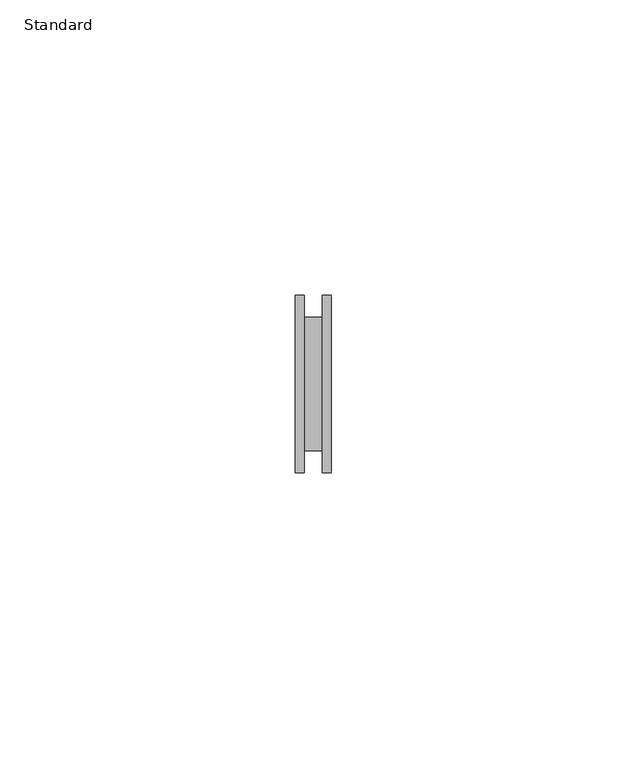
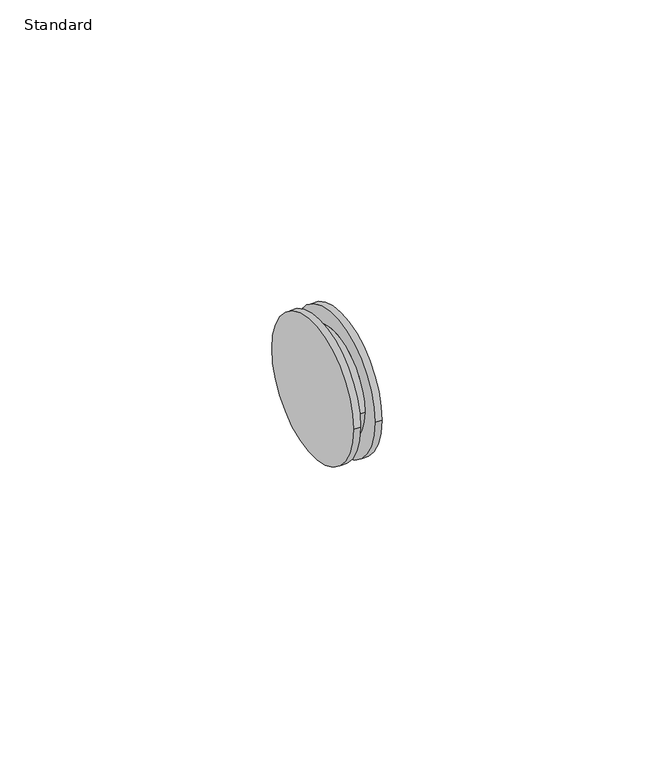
"""IFC4 building model written with IfcOpenShell, lengths in millimetres: pipe fitting geometry, Cople_Lubrizol_CPVC_FlowGuard_MX : Standard."""

from ifc_helpers import new_model, si_unit, frame, origin, place, context, project, spatial, circle_curve, source, transform, mapped, element, save
from ifc_brep_helpers import plane_surface, cylinder_surface, advanced_brep


def standard_c6e6c247(model_context):
    return source(origin(), model_context, "Body", "AdvancedBrep", [
        advanced_brep(
        [(-3.0358594, -15.0071094, 0.0), (-3.0358594, 15.0071094, 0.0), (-1.5190625, -15.0071094, 0.0), (-1.5190625, 15.0071094, 0.0), (-1.5190625, -11.3240625, 0.0), (-1.5190625, 11.3240625, 0.0), (1.5190625, -11.3240625, 0.0), (1.5190625, 11.3240625, 0.0), (1.5190625, -15.0071094, 0.0), (1.5190625, 15.0071094, 0.0), (3.0358594, -15.0071094, 0.0), (3.0358594, 15.0071094, 0.0)],
        [
            (0, 1, circle_curve(frame((-3.0358594, 0.0, 0.0), z_axis=(-1.0, 0.0, 0.0), x_axis=(0.0, 1.0, 0.0)), 15.0071094)),
            (1, 0, circle_curve(frame((-3.0358594, 0.0, 0.0), z_axis=(-1.0, 0.0, 0.0), x_axis=(0.0, 1.0, 0.0)), 15.0071094)),
            (2, 3, circle_curve(frame((-1.5190625, 0.0, 0.0), z_axis=(1.0, 0.0, 0.0), x_axis=(0.0, 1.0, 0.0)), 15.0071094)),
            (3, 2, circle_curve(frame((-1.5190625, 0.0, 0.0), z_axis=(1.0, 0.0, 0.0), x_axis=(0.0, 1.0, 0.0)), 15.0071094)),
            (4, 5, circle_curve(frame((-1.5190625, 0.0, 0.0), z_axis=(-1.0, 0.0, 0.0), x_axis=(0.0, 1.0, 0.0)), 11.3240625)),
            (5, 4, circle_curve(frame((-1.5190625, 0.0, 0.0), z_axis=(-1.0, 0.0, 0.0), x_axis=(0.0, 1.0, 0.0)), 11.3240625)),
            (0, 2),
            (3, 1),
            (4, 6),
            (6, 7, circle_curve(frame((1.5190625, 0.0, 0.0), z_axis=(-1.0, 0.0, 0.0), x_axis=(0.0, 1.0, 0.0)), 11.3240625)),
            (7, 5),
            (7, 6, circle_curve(frame((1.5190625, 0.0, 0.0), z_axis=(-1.0, 0.0, 0.0), x_axis=(0.0, 1.0, 0.0)), 11.3240625)),
            (8, 9, circle_curve(frame((1.5190625, 0.0, 0.0), z_axis=(-1.0, 0.0, 0.0), x_axis=(0.0, 1.0, 0.0)), 15.0071094)),
            (9, 8, circle_curve(frame((1.5190625, 0.0, 0.0), z_axis=(-1.0, 0.0, 0.0), x_axis=(0.0, 1.0, 0.0)), 15.0071094)),
            (10, 11, circle_curve(frame((3.0358594, 0.0, 0.0), z_axis=(1.0, 0.0, 0.0), x_axis=(0.0, 1.0, 0.0)), 15.0071094)),
            (11, 10, circle_curve(frame((3.0358594, 0.0, 0.0), z_axis=(1.0, 0.0, 0.0), x_axis=(0.0, 1.0, 0.0)), 15.0071094)),
            (8, 10),
            (11, 9),
        ],
        [
            plane_surface(frame((-3.0358594, 0.0, 0.0), z_axis=(-1.0, 0.0, 0.0), x_axis=(0.0, 0.0, 1.0))),
            plane_surface(frame((-1.5190625, 0.0, 0.0), z_axis=(1.0, 0.0, 0.0), x_axis=(0.0, 0.0, 1.0))),
            cylinder_surface(frame((-3.0358594, 0.0, 0.0), z_axis=(-1.0, 0.0, 0.0), x_axis=(0.0, 1.0, 0.0)), 15.0071094),
            cylinder_surface(frame((-1.5190625, 0.0, 0.0), z_axis=(-1.0, 0.0, 0.0), x_axis=(0.0, 1.0, 0.0)), 11.3240625),
            plane_surface(frame((1.5190625, 0.0, 0.0), z_axis=(-1.0, 0.0, 0.0), x_axis=(0.0, 0.0, 1.0))),
            plane_surface(frame((3.0358594, 0.0, 0.0), z_axis=(1.0, 0.0, 0.0), x_axis=(0.0, 0.0, 1.0))),
            cylinder_surface(frame((1.5190625, 0.0, 0.0), z_axis=(-1.0, 0.0, 0.0), x_axis=(0.0, 1.0, 0.0)), 15.0071094),
        ],
        [
            (0, [[1, 2]]),
            (1, [[3, 4], [5, 6]]),
            (2, [[-1, 7, -4, 8]]),
            (2, [[-2, -8, -3, -7]]),
            (3, [[9, 10, 11, -5]]),
            (3, [[-9, -6, -11, 12]]),
            (4, [[13, 14], [-10, -12]]),
            (5, [[15, 16]]),
            (6, [[-13, 17, -16, 18]]),
            (6, [[-14, -18, -15, -17]]),
        ],
    ),
    ])


if __name__ == "__main__":
    model = new_model("IFC4")
    model_context = context("Model", 3, world=origin())
    ifc_project = project(units=[si_unit("LENGTHUNIT", "METRE", prefix="MILLI")], contexts=[model_context])
    site = spatial("IfcSite", under=ifc_project)
    building = spatial("IfcBuilding", under=site)
    placement = place(None, origin())
    standard_shape = standard_c6e6c247(model_context)
    element("IfcPipeFitting", 1, ObjectType="Cople_Lubrizol_CPVC_FlowGuard_MX : Standard", at=placement, inside=building, context=model_context, shape_type="MappedRepresentation", body=[
        mapped(standard_shape, transform((0.0, 0.0, 0.0), x_axis=(1.0, 0.0, 0.0), y_axis=(0.0, 1.0, 0.0), z_axis=(0.0, 0.0, 1.0))),
    ])
    save(model, "model.ifc")
